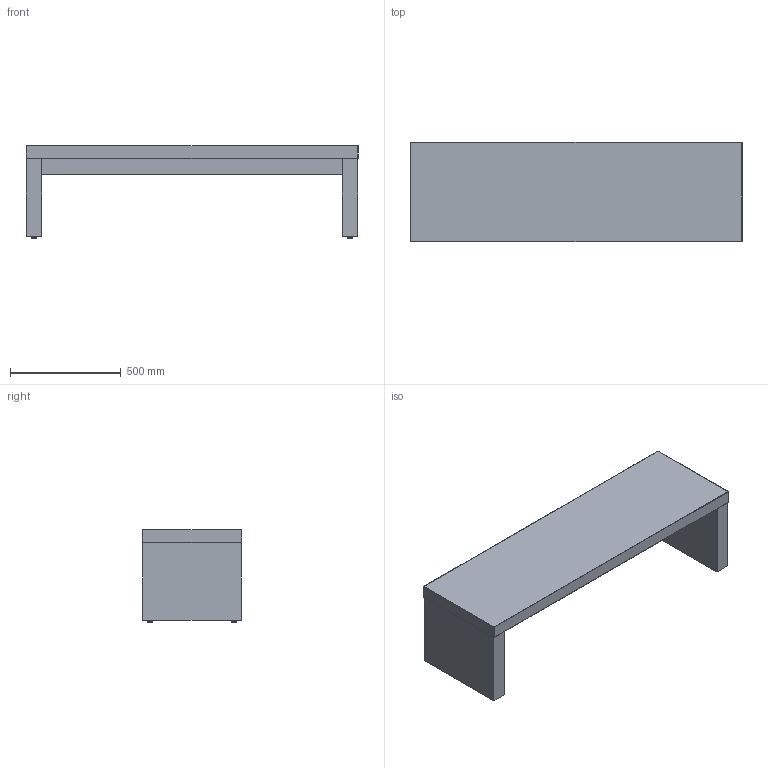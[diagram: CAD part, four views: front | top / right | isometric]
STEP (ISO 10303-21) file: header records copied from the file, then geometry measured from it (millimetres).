
FILE_DESCRIPTION(/* description */ (''),/* implementation_level */ '2;1');
FILE_NAME(/* name */ 'kinoshita_coccole_c472-2',/* time_stamp */ '2026-08-06T15:07:58+09:00',/* author */ (''),/* organization */ (''),/* preprocessor_version */ 'ST-DEVELOPER v16.5',/* originating_system */ '',/* authorisation */ '');
FILE_SCHEMA (('AUTOMOTIVE_DESIGN'));
Length unit declared in the file: millimetre
Products named in the file (1): Document
Bounding box: 1500 x 450 x 420 mm (x, y, z)
Volume: 68053776.8 mm3; surface area: 2677459.9 mm2
Topology: 5 solids, 5 shells, 90 faces, 196 edges, 108 vertices
Faces by surface type: plane 54, bspline 36
Entity records: 2446 total; most frequent: CARTESIAN_POINT 1116, ORIENTED_EDGE 376, EDGE_CURVE 188, B_SPLINE_CURVE_WITH_KNOTS 140, VERTEX_POINT 108, ADVANCED_FACE 90, FACE_OUTER_BOUND 90, EDGE_LOOP 90
